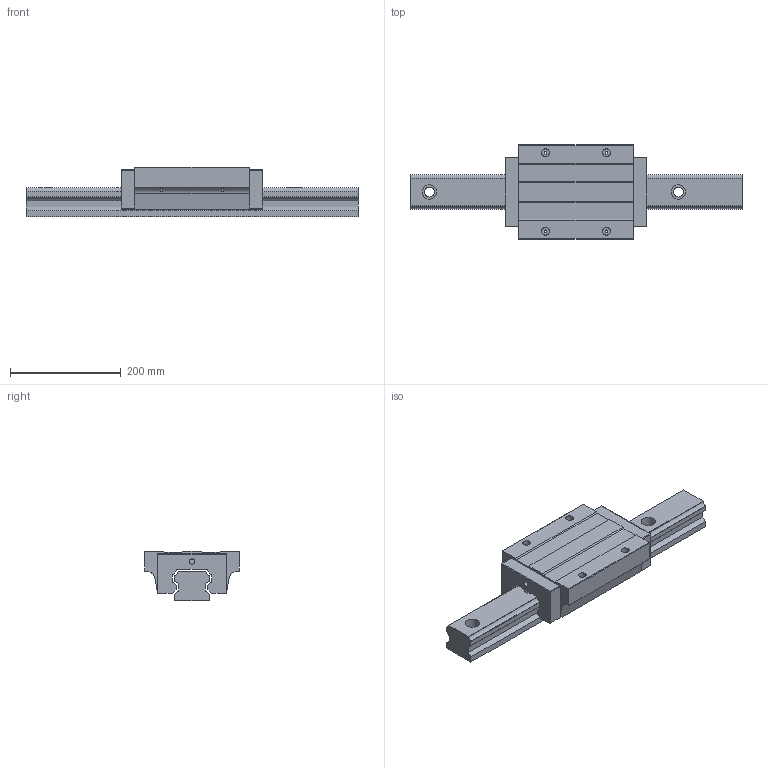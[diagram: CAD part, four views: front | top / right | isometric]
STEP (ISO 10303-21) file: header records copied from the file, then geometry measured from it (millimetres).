
FILE_DESCRIPTION(/* description */ (''),/* implementation_level */ '2;1');
FILE_NAME(/* name */ 'TRH65FE-XN.stp',/* time_stamp */ '2017-10-25T13:12:20+08:00',/* author */ (''),/* organization */ (''),/* preprocessor_version */ 'ST-DEVELOPER v11',/* originating_system */ 'SIEMENS UGS NX 6.0',/* authorisation */ '');
FILE_SCHEMA (('AUTOMOTIVE_DESIGN { 1 0 10303 214 1 1 1 1 }'));
Length unit declared in the file: millimetre
Products named in the file (1): TRH65FE-XN
Bounding box: 600 x 170 x 90 mm (x, y, z)
Volume: 3746602.1 mm3; surface area: 326005.6 mm2
Topology: 2 solids, 2 shells, 132 faces, 329 edges, 206 vertices
Faces by surface type: plane 79, cylinder 49, sphere 4
Full cylindrical faces by diameter (mm): 5 x4, 9.728 x1, 14 x4, 18 x4, 26 x4
Entity records: 3885 total; most frequent: CARTESIAN_POINT 729, DIRECTION 658, ORIENTED_EDGE 608, EDGE_CURVE 304, AXIS2_PLACEMENT_3D 227, LINE 204, VECTOR 204, VERTEX_POINT 202
